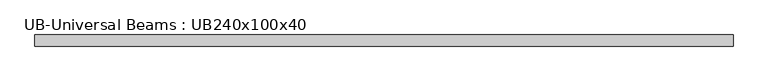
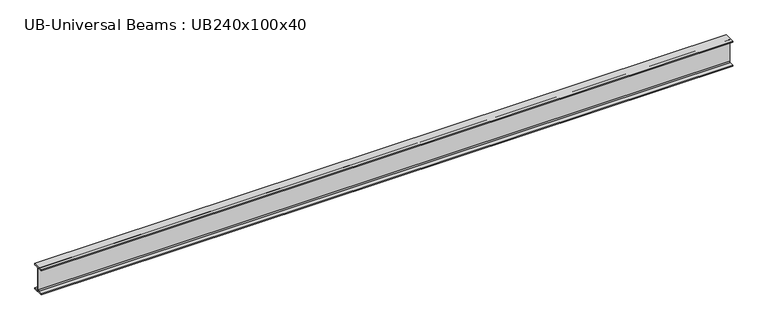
"""IFC4 building model written with IfcOpenShell, lengths in millimetres: beam geometry, UB-Universal Beams : UB240x100x40."""

from ifc_helpers import new_model, si_unit, point, frame, frame_2d, origin, place, context, project, spatial, polyline, circle_curve, trimmed, segment, composite_curve, outline, extrude, source, transform, mapped, element, save


def ub_universal_beams_ub240x100x40_2001c877(model_context):
    return source(origin(), model_context, "Body", "SweptSolid", [
        extrude(outline(composite_curve([segment(polyline([(-50.0, -109.8), (-11.9, -109.8)]), True, "CONTINUOUS"), segment(trimmed(circle_curve(frame_2d((-11.9, -100.9)), 8.9), [point((-11.9, -109.8))], [point((-3.0, -100.9))], True, "CARTESIAN"), True, "CONTINUOUS"), segment(polyline([(-3.0, -100.9), (-3.0, 100.9)]), True, "CONTINUOUS"), segment(trimmed(circle_curve(frame_2d((-11.9, 100.9)), 8.9), [point((-3.0, 100.9))], [point((-11.9, 109.8))], True, "CARTESIAN"), True, "CONTINUOUS"), segment(polyline([(-11.9, 109.8), (-50.0, 109.8), (-50.0, 120.0), (50.0, 120.0), (50.0, 109.8), (11.9, 109.8)]), True, "CONTINUOUS"), segment(trimmed(circle_curve(frame_2d((11.9, 100.9)), 8.9), [point((11.9, 109.8))], [point((3.0, 100.9))], True, "CARTESIAN"), True, "CONTINUOUS"), segment(polyline([(3.0, 100.9), (3.0, -100.9)]), True, "CONTINUOUS"), segment(trimmed(circle_curve(frame_2d((11.9, -100.9)), 8.9), [point((3.0, -100.9))], [point((11.9, -109.8))], True, "CARTESIAN"), True, "CONTINUOUS"), segment(polyline([(11.9, -109.8), (50.0, -109.8), (50.0, -120.0), (-50.0, -120.0), (-50.0, -109.8)]), True, "CONTINUOUS")], self_intersect=False)), frame((-3077.3, 0.0, 0.0), z_axis=(1.0, 0.0, 0.0), x_axis=(0.0, 1.0, 0.0)), (0.0, 0.0, 1.0), 6252.3),
    ])


if __name__ == "__main__":
    model = new_model("IFC4")
    model_context = context("Model", 3, world=origin())
    ifc_project = project(units=[si_unit("LENGTHUNIT", "METRE", prefix="MILLI")], contexts=[model_context])
    site = spatial("IfcSite", under=ifc_project)
    building = spatial("IfcBuilding", under=site)
    placement = place(None, origin())
    ub_universal_beams_ub240x100x40_shape = ub_universal_beams_ub240x100x40_2001c877(model_context)
    element("IfcBeam", 1, ObjectType="UB-Universal Beams : UB240x100x40", at=placement, inside=building, context=model_context, shape_type="MappedRepresentation", body=[
        mapped(ub_universal_beams_ub240x100x40_shape, transform((0.0, 0.0, 0.0), x_axis=(1.0, 0.0, 0.0), y_axis=(0.0, 1.0, 0.0), z_axis=(0.0, 0.0, 1.0))),
    ])
    save(model, "model.ifc")
